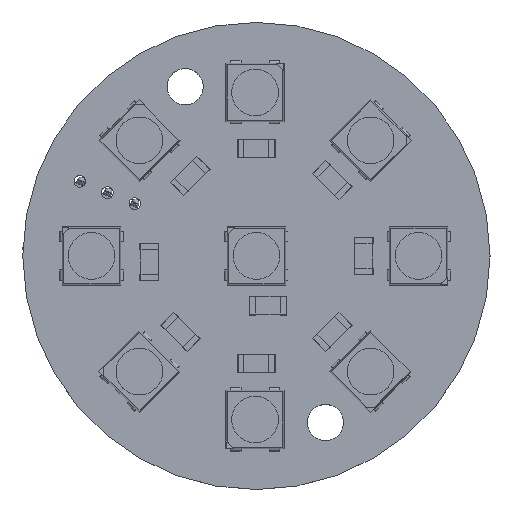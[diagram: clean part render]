
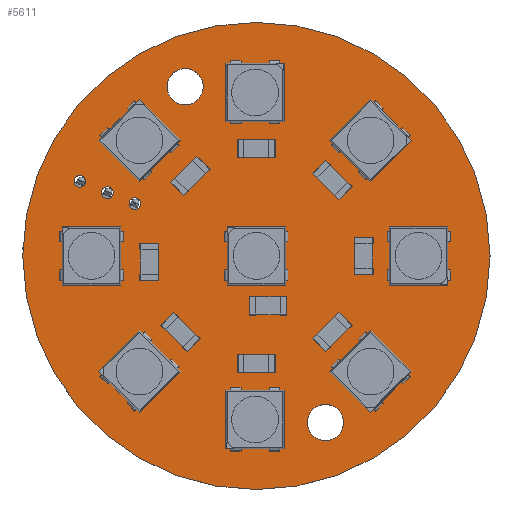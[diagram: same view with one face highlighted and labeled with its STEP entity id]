
A CAD part, top view. The second image highlights one B-rep face of the part: STEP entity #5611.
In plain terms, the highlighted planar face has unit normal (0, 0, 1).
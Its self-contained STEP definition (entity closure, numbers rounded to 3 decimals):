
#5521 = VERTEX_POINT('',#5522);
#5522 = CARTESIAN_POINT('',(241.28,-99.59,1.51));
#5528 = EDGE_CURVE('',#5521,#5521,#5529,.T.);
#5529 = CIRCLE('',#5530,20.);
#5530 = AXIS2_PLACEMENT_3D('',#5531,#5532,#5533);
#5531 = CARTESIAN_POINT('',(221.28,-99.59,1.51));
#5532 = DIRECTION('',(0.,0.,1.));
#5533 = DIRECTION('',(1.,0.,-0.));
#5611 = ADVANCED_FACE('',(#5612,#5615,#5626,#5637,#5648,#5659),#5670,.T.
  );
#5612 = FACE_BOUND('',#5613,.T.);
#5613 = EDGE_LOOP('',(#5614));
#5614 = ORIENTED_EDGE('',*,*,#5528,.T.);
#5615 = FACE_BOUND('',#5616,.T.);
#5616 = EDGE_LOOP('',(#5617));
#5617 = ORIENTED_EDGE('',*,*,#5618,.T.);
#5618 = EDGE_CURVE('',#5619,#5619,#5621,.T.);
#5619 = VERTEX_POINT('',#5620);
#5620 = CARTESIAN_POINT('',(227.19,-115.4,1.51));
#5621 = CIRCLE('',#5622,1.55);
#5622 = AXIS2_PLACEMENT_3D('',#5623,#5624,#5625);
#5623 = CARTESIAN_POINT('',(227.19,-113.85,1.51));
#5624 = DIRECTION('',(-0.,0.,-1.));
#5625 = DIRECTION('',(-0.,-1.,0.));
#5626 = FACE_BOUND('',#5627,.T.);
#5627 = EDGE_LOOP('',(#5628));
#5628 = ORIENTED_EDGE('',*,*,#5629,.T.);
#5629 = EDGE_CURVE('',#5630,#5630,#5632,.T.);
#5630 = VERTEX_POINT('',#5631);
#5631 = CARTESIAN_POINT('',(208.525,-94.658,1.51));
#5632 = CIRCLE('',#5633,0.5);
#5633 = AXIS2_PLACEMENT_3D('',#5634,#5635,#5636);
#5634 = CARTESIAN_POINT('',(208.525,-94.158,1.51));
#5635 = DIRECTION('',(-0.,0.,-1.));
#5636 = DIRECTION('',(-0.,-1.,0.));
#5637 = FACE_BOUND('',#5638,.T.);
#5638 = EDGE_LOOP('',(#5639));
#5639 = ORIENTED_EDGE('',*,*,#5640,.T.);
#5640 = EDGE_CURVE('',#5641,#5641,#5643,.T.);
#5641 = VERTEX_POINT('',#5642);
#5642 = CARTESIAN_POINT('',(206.17,-93.707,1.51));
#5643 = CIRCLE('',#5644,0.5);
#5644 = AXIS2_PLACEMENT_3D('',#5645,#5646,#5647);
#5645 = CARTESIAN_POINT('',(206.17,-93.207,1.51));
#5646 = DIRECTION('',(-0.,0.,-1.));
#5647 = DIRECTION('',(-0.,-1.,0.));
#5648 = FACE_BOUND('',#5649,.T.);
#5649 = EDGE_LOOP('',(#5650));
#5650 = ORIENTED_EDGE('',*,*,#5651,.T.);
#5651 = EDGE_CURVE('',#5652,#5652,#5654,.T.);
#5652 = VERTEX_POINT('',#5653);
#5653 = CARTESIAN_POINT('',(210.88,-95.61,1.51));
#5654 = CIRCLE('',#5655,0.5);
#5655 = AXIS2_PLACEMENT_3D('',#5656,#5657,#5658);
#5656 = CARTESIAN_POINT('',(210.88,-95.11,1.51));
#5657 = DIRECTION('',(-0.,0.,-1.));
#5658 = DIRECTION('',(-0.,-1.,0.));
#5659 = FACE_BOUND('',#5660,.T.);
#5660 = EDGE_LOOP('',(#5661));
#5661 = ORIENTED_EDGE('',*,*,#5662,.T.);
#5662 = EDGE_CURVE('',#5663,#5663,#5665,.T.);
#5663 = VERTEX_POINT('',#5664);
#5664 = CARTESIAN_POINT('',(215.18,-86.65,1.51));
#5665 = CIRCLE('',#5666,1.55);
#5666 = AXIS2_PLACEMENT_3D('',#5667,#5668,#5669);
#5667 = CARTESIAN_POINT('',(215.18,-85.1,1.51));
#5668 = DIRECTION('',(-0.,0.,-1.));
#5669 = DIRECTION('',(-0.,-1.,0.));
#5670 = PLANE('',#5671);
#5671 = AXIS2_PLACEMENT_3D('',#5672,#5673,#5674);
#5672 = CARTESIAN_POINT('',(0.,0.,1.51));
#5673 = DIRECTION('',(0.,0.,1.));
#5674 = DIRECTION('',(1.,0.,-0.));
